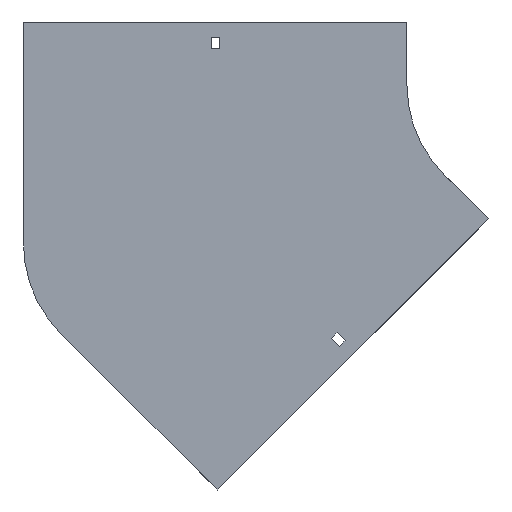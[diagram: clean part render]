
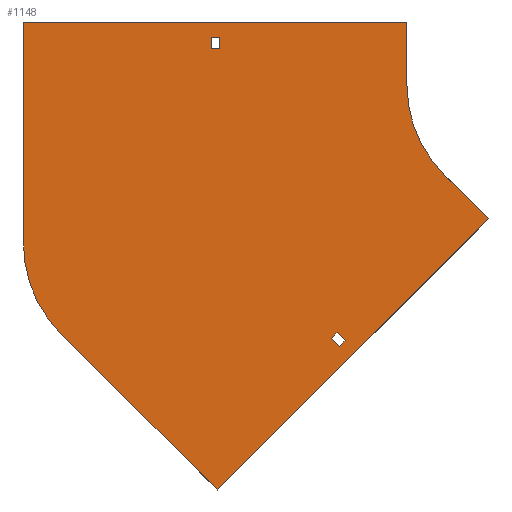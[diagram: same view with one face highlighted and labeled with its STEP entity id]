
A CAD part, front view. The second image highlights one B-rep face of the part: STEP entity #1148.
In plain terms, the highlighted planar face has unit normal (0, -1, 0).
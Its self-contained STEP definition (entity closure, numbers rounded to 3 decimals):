
#10 = DIRECTION ( 'NONE',  ( 0., 0., -1. ) ) ;
#12 = VERTEX_POINT ( 'NONE', #339 ) ;
#18 = VECTOR ( 'NONE', #74, 1000. ) ;
#28 = EDGE_CURVE ( 'NONE', #825, #1395, #967, .T. ) ;
#35 = CARTESIAN_POINT ( 'NONE',  ( -100., 0., 50. ) ) ;
#46 = LINE ( 'NONE', #35, #1759 ) ;
#49 = CIRCLE ( 'NONE', #1845, 100. ) ;
#53 = ORIENTED_EDGE ( 'NONE', *, *, #951, .T. ) ;
#57 = LINE ( 'NONE', #1717, #1318 ) ;
#59 = CARTESIAN_POINT ( 'NONE',  ( -304., 0., -125.921 ) ) ;
#73 = LINE ( 'NONE', #1289, #558 ) ;
#74 = DIRECTION ( 'NONE',  ( -0.707, 0., 0.707 ) ) ;
#96 = DIRECTION ( 'NONE',  ( 1., 0., 0. ) ) ;
#101 = DIRECTION ( 'NONE',  ( 0., 0., 1. ) ) ;
#103 = ORIENTED_EDGE ( 'NONE', *, *, #1040, .F. ) ;
#112 = ORIENTED_EDGE ( 'NONE', *, *, #246, .F. ) ;
#113 = EDGE_CURVE ( 'NONE', #1548, #425, #1839, .T. ) ;
#150 = DIRECTION ( 'NONE',  ( -0.707, 0., -0.707 ) ) ;
#174 = DIRECTION ( 'NONE',  ( 0., 0., -1. ) ) ;
#181 = DIRECTION ( 'NONE',  ( 0., 0., -1. ) ) ;
#192 = ORIENTED_EDGE ( 'NONE', *, *, #1025, .T. ) ;
#202 = LINE ( 'NONE', #839, #18 ) ;
#216 = ORIENTED_EDGE ( 'NONE', *, *, #1576, .F. ) ;
#217 = EDGE_CURVE ( 'NONE', #914, #1364, #430, .T. ) ;
#246 = EDGE_CURVE ( 'NONE', #1238, #825, #546, .T. ) ;
#314 = CARTESIAN_POINT ( 'NONE',  ( 0., 0., 0. ) ) ;
#321 = EDGE_CURVE ( 'NONE', #1897, #724, #606, .T. ) ;
#338 = ORIENTED_EDGE ( 'NONE', *, *, #525, .T. ) ;
#339 = CARTESIAN_POINT ( 'NONE',  ( -248.75, 0., 38. ) ) ;
#412 = CARTESIAN_POINT ( 'NONE',  ( -374.711, 0., -196.632 ) ) ;
#425 = VERTEX_POINT ( 'NONE', #1229 ) ;
#430 = LINE ( 'NONE', #1596, #728 ) ;
#443 = DIRECTION ( 'NONE',  ( 0.707, 0., 0.707 ) ) ;
#448 = ORIENTED_EDGE ( 'NONE', *, *, #1215, .F. ) ;
#480 = CARTESIAN_POINT ( 'NONE',  ( -70.711, 0., -70.711 ) ) ;
#513 = DIRECTION ( 'NONE',  ( 1., 0., 0. ) ) ;
#518 = DIRECTION ( 'NONE',  ( -0.707, 0., -0.707 ) ) ;
#525 = EDGE_CURVE ( 'NONE', #939, #914, #1314, .T. ) ;
#546 = LINE ( 'NONE', #590, #623 ) ;
#558 = VECTOR ( 'NONE', #518, 1000. ) ;
#562 = CARTESIAN_POINT ( 'NONE',  ( -248.75, 0., 29. ) ) ;
#573 = EDGE_LOOP ( 'NONE', ( #103, #1600, #112, #711 ) ) ;
#589 = CARTESIAN_POINT ( 'NONE',  ( -250.316, 0., -321.026 ) ) ;
#590 = CARTESIAN_POINT ( 'NONE',  ( -159.983, 0., -200.995 ) ) ;
#606 = LINE ( 'NONE', #1799, #1770 ) ;
#611 = LINE ( 'NONE', #755, #718 ) ;
#623 = VECTOR ( 'NONE', #150, 1000. ) ;
#661 = DIRECTION ( 'NONE',  ( 0., 1., 0. ) ) ;
#670 = CARTESIAN_POINT ( 'NONE',  ( -155.387, 0., -196.399 ) ) ;
#701 = CARTESIAN_POINT ( 'NONE',  ( -149.023, 0., -202.763 ) ) ;
#711 = ORIENTED_EDGE ( 'NONE', *, *, #1415, .F. ) ;
#715 = CARTESIAN_POINT ( 'NONE',  ( -255.25, 0., 29. ) ) ;
#717 = CARTESIAN_POINT ( 'NONE',  ( -255.25, 0., 29. ) ) ;
#718 = VECTOR ( 'NONE', #443, 1000. ) ;
#724 = VERTEX_POINT ( 'NONE', #412 ) ;
#728 = VECTOR ( 'NONE', #101, 1000. ) ;
#740 = VERTEX_POINT ( 'NONE', #1778 ) ;
#749 = VECTOR ( 'NONE', #10, 1000. ) ;
#755 = CARTESIAN_POINT ( 'NONE',  ( -153.619, 0., -207.359 ) ) ;
#763 = CARTESIAN_POINT ( 'NONE',  ( -248.75, 0., 29. ) ) ;
#767 = ORIENTED_EDGE ( 'NONE', *, *, #1235, .F. ) ;
#799 = LINE ( 'NONE', #1874, #1598 ) ;
#807 = CARTESIAN_POINT ( 'NONE',  ( -159.983, 0., -200.995 ) ) ;
#825 = VERTEX_POINT ( 'NONE', #1135 ) ;
#827 = CARTESIAN_POINT ( 'NONE',  ( -153.619, 0., -207.359 ) ) ;
#839 = CARTESIAN_POINT ( 'NONE',  ( -155.387, 0., -196.399 ) ) ;
#844 = EDGE_LOOP ( 'NONE', ( #1287, #53, #192, #338 ) ) ;
#914 = VERTEX_POINT ( 'NONE', #715 ) ;
#930 = DIRECTION ( 'NONE',  ( 0., -1., 0. ) ) ;
#931 = VERTEX_POINT ( 'NONE', #701 ) ;
#939 = VERTEX_POINT ( 'NONE', #562 ) ;
#951 = EDGE_CURVE ( 'NONE', #1364, #12, #1736, .T. ) ;
#967 = LINE ( 'NONE', #807, #1066 ) ;
#973 = FACE_OUTER_BOUND ( 'NONE', #1785, .T. ) ;
#985 = CARTESIAN_POINT ( 'NONE',  ( -255.25, 0., 38. ) ) ;
#1025 = EDGE_CURVE ( 'NONE', #12, #939, #1034, .T. ) ;
#1034 = LINE ( 'NONE', #763, #749 ) ;
#1040 = EDGE_CURVE ( 'NONE', #1395, #931, #611, .T. ) ;
#1062 = DIRECTION ( 'NONE',  ( -0.707, 0., 0.707 ) ) ;
#1066 = VECTOR ( 'NONE', #1392, 1000. ) ;
#1078 = PLANE ( 'NONE',  #1443 ) ;
#1095 = DIRECTION ( 'NONE',  ( 0.707, 0., -0.707 ) ) ;
#1096 = AXIS2_PLACEMENT_3D ( 'NONE', #59, #661, #1265 ) ;
#1101 = CARTESIAN_POINT ( 'NONE',  ( -404., 0., -125.921 ) ) ;
#1118 = DIRECTION ( 'NONE',  ( 0., -1., 0. ) ) ;
#1128 = VERTEX_POINT ( 'NONE', #1101 ) ;
#1132 = VECTOR ( 'NONE', #1095, 1000. ) ;
#1135 = CARTESIAN_POINT ( 'NONE',  ( -159.983, 0., -200.995 ) ) ;
#1148 = ADVANCED_FACE ( 'NONE', ( #1721, #973, #1225 ), #1078, .T. ) ;
#1177 = ORIENTED_EDGE ( 'NONE', *, *, #321, .F. ) ;
#1181 = CARTESIAN_POINT ( 'NONE',  ( -404., 0., 50. ) ) ;
#1215 = EDGE_CURVE ( 'NONE', #1435, #1548, #49, .T. ) ;
#1225 = FACE_BOUND ( 'NONE', #573, .T. ) ;
#1229 = CARTESIAN_POINT ( 'NONE',  ( -35.355, 0., -106.066 ) ) ;
#1235 = EDGE_CURVE ( 'NONE', #1481, #740, #57, .T. ) ;
#1238 = VERTEX_POINT ( 'NONE', #670 ) ;
#1258 = CARTESIAN_POINT ( 'NONE',  ( -255.25, 0., 38. ) ) ;
#1265 = DIRECTION ( 'NONE',  ( 0., 0., 1. ) ) ;
#1267 = EDGE_CURVE ( 'NONE', #1128, #1481, #799, .T. ) ;
#1287 = ORIENTED_EDGE ( 'NONE', *, *, #217, .T. ) ;
#1289 = CARTESIAN_POINT ( 'NONE',  ( -35.355, 0., -106.066 ) ) ;
#1314 = LINE ( 'NONE', #717, #1436 ) ;
#1318 = VECTOR ( 'NONE', #513, 1000. ) ;
#1323 = DIRECTION ( 'NONE',  ( -1., 0., 0. ) ) ;
#1364 = VERTEX_POINT ( 'NONE', #1258 ) ;
#1392 = DIRECTION ( 'NONE',  ( 0.707, 0., -0.707 ) ) ;
#1395 = VERTEX_POINT ( 'NONE', #827 ) ;
#1415 = EDGE_CURVE ( 'NONE', #931, #1238, #202, .T. ) ;
#1419 = CARTESIAN_POINT ( 'NONE',  ( 0., 0., 0. ) ) ;
#1435 = VERTEX_POINT ( 'NONE', #1765 ) ;
#1436 = VECTOR ( 'NONE', #1323, 1000. ) ;
#1443 = AXIS2_PLACEMENT_3D ( 'NONE', #314, #930, #174 ) ;
#1460 = ORIENTED_EDGE ( 'NONE', *, *, #1615, .F. ) ;
#1481 = VERTEX_POINT ( 'NONE', #1181 ) ;
#1548 = VERTEX_POINT ( 'NONE', #1718 ) ;
#1576 = EDGE_CURVE ( 'NONE', #724, #1128, #1791, .T. ) ;
#1596 = CARTESIAN_POINT ( 'NONE',  ( -255.25, 0., 29. ) ) ;
#1598 = VECTOR ( 'NONE', #1729, 1000. ) ;
#1600 = ORIENTED_EDGE ( 'NONE', *, *, #28, .F. ) ;
#1615 = EDGE_CURVE ( 'NONE', #740, #1435, #46, .T. ) ;
#1623 = ORIENTED_EDGE ( 'NONE', *, *, #1855, .F. ) ;
#1625 = VECTOR ( 'NONE', #96, 1000. ) ;
#1707 = DIRECTION ( 'NONE',  ( 0., 0., -1. ) ) ;
#1717 = CARTESIAN_POINT ( 'NONE',  ( -404., 0., 50. ) ) ;
#1718 = CARTESIAN_POINT ( 'NONE',  ( -70.711, 0., -70.711 ) ) ;
#1721 = FACE_BOUND ( 'NONE', #844, .T. ) ;
#1729 = DIRECTION ( 'NONE',  ( 0., 0., 1. ) ) ;
#1736 = LINE ( 'NONE', #985, #1625 ) ;
#1759 = VECTOR ( 'NONE', #181, 1000. ) ;
#1765 = CARTESIAN_POINT ( 'NONE',  ( -100., 0., 0. ) ) ;
#1770 = VECTOR ( 'NONE', #1062, 1000. ) ;
#1778 = CARTESIAN_POINT ( 'NONE',  ( -100., 0., 50. ) ) ;
#1785 = EDGE_LOOP ( 'NONE', ( #767, #1904, #216, #1177, #1623, #1925, #448, #1460 ) ) ;
#1791 = CIRCLE ( 'NONE', #1096, 100. ) ;
#1799 = CARTESIAN_POINT ( 'NONE',  ( -250.316, 0., -321.026 ) ) ;
#1839 = LINE ( 'NONE', #480, #1132 ) ;
#1845 = AXIS2_PLACEMENT_3D ( 'NONE', #1419, #1118, #1707 ) ;
#1855 = EDGE_CURVE ( 'NONE', #425, #1897, #73, .T. ) ;
#1874 = CARTESIAN_POINT ( 'NONE',  ( -404., 0., -125.921 ) ) ;
#1897 = VERTEX_POINT ( 'NONE', #589 ) ;
#1904 = ORIENTED_EDGE ( 'NONE', *, *, #1267, .F. ) ;
#1925 = ORIENTED_EDGE ( 'NONE', *, *, #113, .F. ) ;
